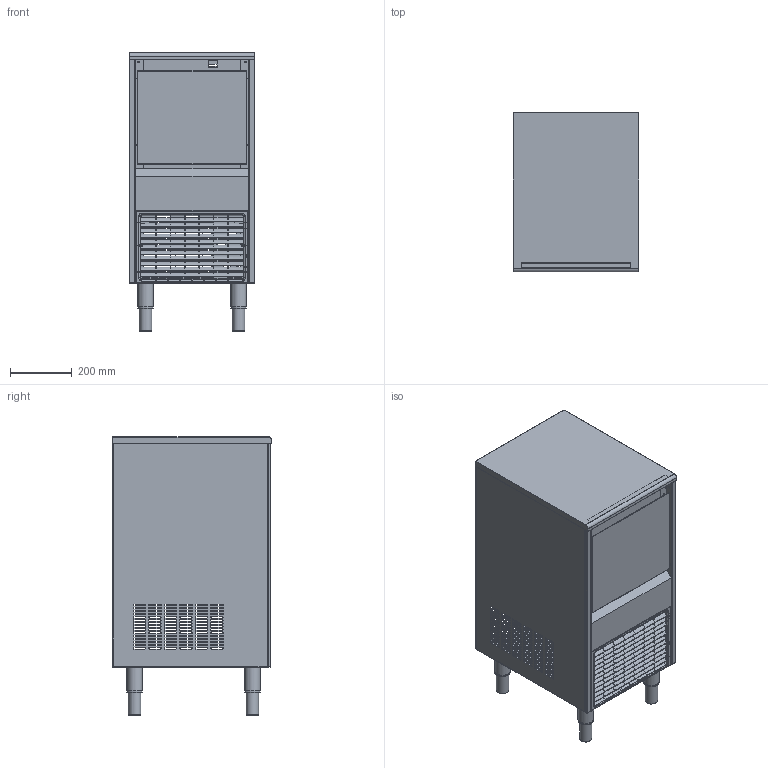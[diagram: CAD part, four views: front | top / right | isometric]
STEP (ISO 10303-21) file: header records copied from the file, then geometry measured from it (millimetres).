
FILE_DESCRIPTION(/* description */ ('Unknown'),/* implementation_level */ '2;1');
FILE_NAME(/* name */ 'NG-30',/* time_stamp */ '2018-04-19T11:41:29+02:00',/* author */ ('Unknown'),/* organization */ ('Unknown'),/* preprocessor_version */ 'ST-DEVELOPER v16.7',/* originating_system */ 'DEX',/* authorisation */ $);
FILE_SCHEMA (('CONFIG_CONTROL_DESIGN'));
Products named in the file (18): NG-30; NG-30+carroceria_oa_0; 32-1+2836; 32-42; 32-3+3293_R01; 32-10+4220; 32-3+3292_R01; 32-4+3406; 32-5+3407; 32-47+CH0; 32-6+3079; 32-11+5072_oa_1; 32-12+4221; 32-9+3387; 32-43; 32-10+4219; 32-25+4223; 32-30
Assembly tree (20 placements, depth 4):
  NG-30
    NG-30+carroceria_oa_0
      32-1+2836
      32-42
      32-3+3293_R01
      32-10+4220
      32-3+3292_R01
      32-4+3406
      32-5+3407
      32-47+CH0
      32-6+3079
      32-11+5072_oa_1
        32-12+4221
      32-9+3387
      32-43
      32-10+4219
      32-25+4223
    32-30  x4
Bounding box: 405 x 515.2 x 897.9 mm (x, y, z)
Volume: 3074561 mm3; surface area: 4475269.6 mm2
Topology: 18 solids, 18 shells, 3288 faces, 9746 edges, 6395 vertices
Faces by surface type: plane 1861, cylinder 1105, bspline 298, torus 16, sphere 4, cone 4
Full cylindrical faces by diameter (mm): 2.4 x17, 2.7 x28, 2.9 x4, 3.25 x3, 3.5 x26, 4.2 x4, 4.25 x54, 4.5 x2, 5 x25, 6 x31, 7 x10, 8 x9, 9 x2, 10 x4, 12 x2, 13 x2, 30 x1, 38 x4, 40 x4, 50 x4, 51 x4
Entity records: 118149 total; most frequent: CARTESIAN_POINT 31865, ORIENTED_EDGE 18406, DIRECTION 16392, EDGE_CURVE 9203, VERTEX_POINT 6172, LINE 5772, VECTOR 5772, AXIS2_PLACEMENT_3D 5310
